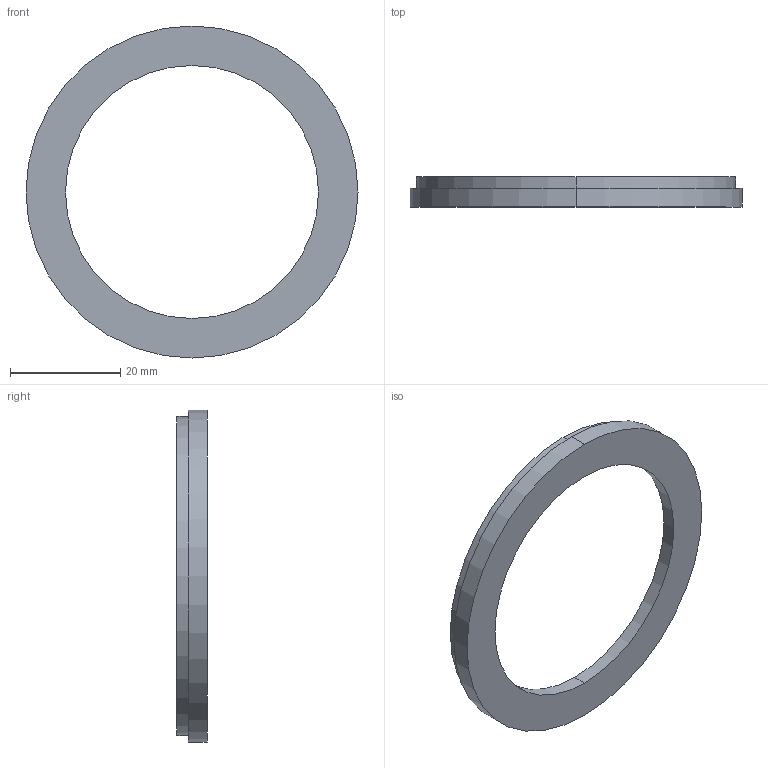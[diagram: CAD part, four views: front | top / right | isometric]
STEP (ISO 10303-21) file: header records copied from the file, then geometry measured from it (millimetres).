
FILE_DESCRIPTION (( 'STEP AP214' ), '1' );
FILE_NAME ('SD48-46.STEP', '2019-04-03T14:58:03', ( '' ), ( '' ), 'SwSTEP 2.0', 'SolidWorks 2019', '' );
FILE_SCHEMA (( 'AUTOMOTIVE_DESIGN' ));
Length unit declared in the file: millimetre
Products named in the file (1): SD48-46
Bounding box: 60.36 x 5.5 x 60.36 mm (x, y, z)
Volume: 4016.5 mm3; surface area: 4305.3 mm2
Topology: 1 solids, 1 shells, 12 faces, 24 edges, 16 vertices
Faces by surface type: cylinder 8, plane 4
Entity records: 362 total; most frequent: DIRECTION 66, CARTESIAN_POINT 53, ORIENTED_EDGE 48, AXIS2_PLACEMENT_3D 29, EDGE_CURVE 24, VERTEX_POINT 16, CIRCLE 16, EDGE_LOOP 16
